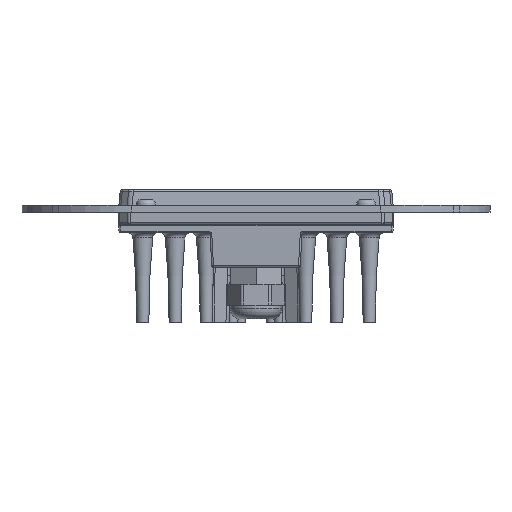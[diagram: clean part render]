
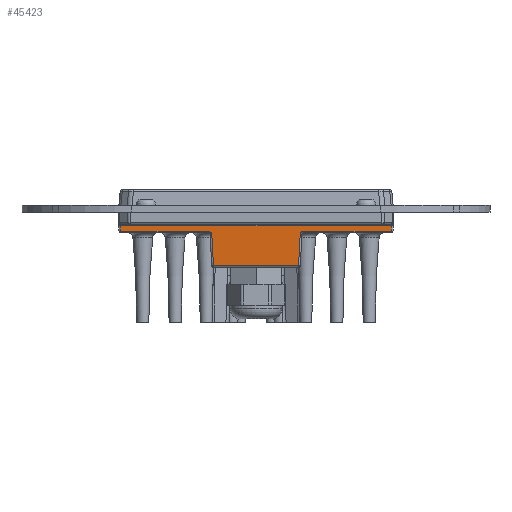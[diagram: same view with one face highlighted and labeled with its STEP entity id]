
A CAD part, left-side view. The second image highlights one B-rep face of the part: STEP entity #45423.
In plain terms, the highlighted planar face has unit normal (-0.999, 0, -0.052).
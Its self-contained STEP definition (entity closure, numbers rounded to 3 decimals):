
#409=B_SPLINE_CURVE_WITH_KNOTS('',3,(#66820,#66821,#66822,#66823,#66824,
#66825,#66826,#66827,#66828,#66829,#66830,#66831,#66832,#66833,#66834,#66835,
#66836,#66837,#66838),.UNSPECIFIED.,.F.,.F.,(4,3,3,3,3,3,4),(0.,0.167,
0.333,0.5,0.667,0.833,1.),.UNSPECIFIED.);
#410=B_SPLINE_CURVE_WITH_KNOTS('',3,(#66846,#66847,#66848,#66849,#66850,
#66851,#66852,#66853,#66854,#66855,#66856,#66857,#66858,#66859,#66860,#66861,
#66862,#66863,#66864),.UNSPECIFIED.,.F.,.F.,(4,3,3,3,3,3,4),(0.,0.167,
0.333,0.5,0.667,0.833,1.),.UNSPECIFIED.);
#5336=FACE_OUTER_BOUND('',#8245,.T.);
#8245=EDGE_LOOP('',(#30813,#30814,#30815,#30816,#30817,#30818,#30819,#30820,
#30821,#30822));
#13619=LINE('',#66574,#15854);
#13629=LINE('',#66812,#15864);
#13630=LINE('',#66816,#15865);
#13631=LINE('',#66818,#15866);
#13632=LINE('',#66840,#15867);
#13633=LINE('',#66842,#15868);
#13634=LINE('',#66844,#15869);
#13635=LINE('',#66865,#15870);
#15854=VECTOR('',#53476,78.724);
#15864=VECTOR('',#53528,1.555);
#15865=VECTOR('',#53533,1.555);
#15866=VECTOR('',#53534,25.464);
#15867=VECTOR('',#53535,9.08);
#15868=VECTOR('',#53536,24.741);
#15869=VECTOR('',#53537,9.081);
#15870=VECTOR('',#53538,25.464);
#18126=VERTEX_POINT('',#66568);
#18127=VERTEX_POINT('',#66572);
#18134=VERTEX_POINT('',#66811);
#18135=VERTEX_POINT('',#66815);
#18136=VERTEX_POINT('',#66817);
#18137=VERTEX_POINT('',#66819);
#18138=VERTEX_POINT('',#66839);
#18139=VERTEX_POINT('',#66841);
#18140=VERTEX_POINT('',#66843);
#18141=VERTEX_POINT('',#66845);
#22909=EDGE_CURVE('',#18127,#18126,#13619,.T.);
#22932=EDGE_CURVE('',#18134,#18127,#13629,.T.);
#22934=EDGE_CURVE('',#18126,#18135,#13630,.T.);
#22935=EDGE_CURVE('',#18136,#18135,#13631,.T.);
#22936=EDGE_CURVE('',#18137,#18136,#409,.T.);
#22937=EDGE_CURVE('',#18137,#18138,#13632,.T.);
#22938=EDGE_CURVE('',#18139,#18138,#13633,.T.);
#22939=EDGE_CURVE('',#18139,#18140,#13634,.T.);
#22940=EDGE_CURVE('',#18141,#18140,#410,.T.);
#22941=EDGE_CURVE('',#18134,#18141,#13635,.T.);
#30813=ORIENTED_EDGE('',*,*,#22932,.T.);
#30814=ORIENTED_EDGE('',*,*,#22909,.T.);
#30815=ORIENTED_EDGE('',*,*,#22934,.T.);
#30816=ORIENTED_EDGE('',*,*,#22935,.F.);
#30817=ORIENTED_EDGE('',*,*,#22936,.F.);
#30818=ORIENTED_EDGE('',*,*,#22937,.T.);
#30819=ORIENTED_EDGE('',*,*,#22938,.F.);
#30820=ORIENTED_EDGE('',*,*,#22939,.T.);
#30821=ORIENTED_EDGE('',*,*,#22940,.F.);
#30822=ORIENTED_EDGE('',*,*,#22941,.F.);
#44449=PLANE('',#48494);
#45423=ADVANCED_FACE('',(#5336),#44449,.T.);
#48494=AXIS2_PLACEMENT_3D('',#66814,#53531,#53532);
#53476=DIRECTION('',(0.,1.,0.));
#53528=DIRECTION('',(-0.052,-0.035,0.998));
#53531=DIRECTION('center_axis',(-0.999,0.,
-0.052));
#53532=DIRECTION('ref_axis',(0.,-1.,0.));
#53533=DIRECTION('',(0.052,-0.035,-0.998));
#53534=DIRECTION('',(0.,1.,0.));
#53535=DIRECTION('',(0.052,-0.052,-0.997));
#53536=DIRECTION('',(0.,1.,0.));
#53537=DIRECTION('',(-0.052,-0.053,0.997));
#53538=DIRECTION('',(0.,1.,0.));
#66568=CARTESIAN_POINT('',(545.877,49.702,11.85));
#66572=CARTESIAN_POINT('',(545.877,-29.021,11.85));
#66574=CARTESIAN_POINT('',(545.877,-29.021,11.85));
#66811=CARTESIAN_POINT('',(545.958,-28.967,10.297));
#66812=CARTESIAN_POINT('',(545.958,-28.967,10.297));
#66814=CARTESIAN_POINT('Origin',(545.852,-30.86,12.323));
#66815=CARTESIAN_POINT('',(545.958,49.648,10.297));
#66816=CARTESIAN_POINT('',(545.877,49.702,11.85));
#66817=CARTESIAN_POINT('',(545.958,24.184,10.297));
#66818=CARTESIAN_POINT('',(545.958,24.184,10.297));
#66819=CARTESIAN_POINT('',(546.008,23.188,9.352));
#66820=CARTESIAN_POINT('Ctrl Pts',(546.008,23.188,9.352));
#66821=CARTESIAN_POINT('Ctrl Pts',(546.003,23.192,9.434));
#66822=CARTESIAN_POINT('Ctrl Pts',(545.999,23.206,9.518));
#66823=CARTESIAN_POINT('Ctrl Pts',(545.995,23.23,9.598));
#66824=CARTESIAN_POINT('Ctrl Pts',(545.99,23.255,9.679));
#66825=CARTESIAN_POINT('Ctrl Pts',(545.986,23.291,9.756));
#66826=CARTESIAN_POINT('Ctrl Pts',(545.983,23.336,9.828));
#66827=CARTESIAN_POINT('Ctrl Pts',(545.979,23.381,9.899));
#66828=CARTESIAN_POINT('Ctrl Pts',(545.975,23.435,9.965));
#66829=CARTESIAN_POINT('Ctrl Pts',(545.972,23.496,10.023));
#66830=CARTESIAN_POINT('Ctrl Pts',(545.969,23.557,10.081));
#66831=CARTESIAN_POINT('Ctrl Pts',(545.967,23.626,10.131));
#66832=CARTESIAN_POINT('Ctrl Pts',(545.965,23.699,10.172));
#66833=CARTESIAN_POINT('Ctrl Pts',(545.962,23.773,10.213));
#66834=CARTESIAN_POINT('Ctrl Pts',(545.961,23.852,10.244));
#66835=CARTESIAN_POINT('Ctrl Pts',(545.96,23.933,10.265));
#66836=CARTESIAN_POINT('Ctrl Pts',(545.959,24.014,10.286));
#66837=CARTESIAN_POINT('Ctrl Pts',(545.958,24.098,10.297));
#66838=CARTESIAN_POINT('Ctrl Pts',(545.958,24.184,10.297));
#66839=CARTESIAN_POINT('',(546.482,22.711,0.297));
#66840=CARTESIAN_POINT('',(546.008,23.188,9.352));
#66841=CARTESIAN_POINT('',(546.482,-2.03,0.297));
#66842=CARTESIAN_POINT('',(546.482,-2.03,0.297));
#66843=CARTESIAN_POINT('',(546.008,-2.507,9.353));
#66844=CARTESIAN_POINT('',(546.482,-2.03,0.297));
#66845=CARTESIAN_POINT('',(545.958,-3.503,10.297));
#66846=CARTESIAN_POINT('Ctrl Pts',(545.958,-3.503,10.297));
#66847=CARTESIAN_POINT('Ctrl Pts',(545.958,-3.417,10.297));
#66848=CARTESIAN_POINT('Ctrl Pts',(545.959,-3.334,10.286));
#66849=CARTESIAN_POINT('Ctrl Pts',(545.96,-3.252,10.265));
#66850=CARTESIAN_POINT('Ctrl Pts',(545.961,-3.171,10.244));
#66851=CARTESIAN_POINT('Ctrl Pts',(545.962,-3.092,10.213));
#66852=CARTESIAN_POINT('Ctrl Pts',(545.965,-3.018,10.172));
#66853=CARTESIAN_POINT('Ctrl Pts',(545.967,-2.945,10.131));
#66854=CARTESIAN_POINT('Ctrl Pts',(545.969,-2.876,10.081));
#66855=CARTESIAN_POINT('Ctrl Pts',(545.972,-2.815,10.023));
#66856=CARTESIAN_POINT('Ctrl Pts',(545.975,-2.754,9.965));
#66857=CARTESIAN_POINT('Ctrl Pts',(545.979,-2.7,9.899));
#66858=CARTESIAN_POINT('Ctrl Pts',(545.983,-2.655,9.828));
#66859=CARTESIAN_POINT('Ctrl Pts',(545.986,-2.61,9.756));
#66860=CARTESIAN_POINT('Ctrl Pts',(545.99,-2.574,9.679));
#66861=CARTESIAN_POINT('Ctrl Pts',(545.995,-2.55,9.599));
#66862=CARTESIAN_POINT('Ctrl Pts',(545.999,-2.525,9.518));
#66863=CARTESIAN_POINT('Ctrl Pts',(546.003,-2.511,9.434));
#66864=CARTESIAN_POINT('Ctrl Pts',(546.008,-2.507,9.353));
#66865=CARTESIAN_POINT('',(545.958,-28.967,10.297));
